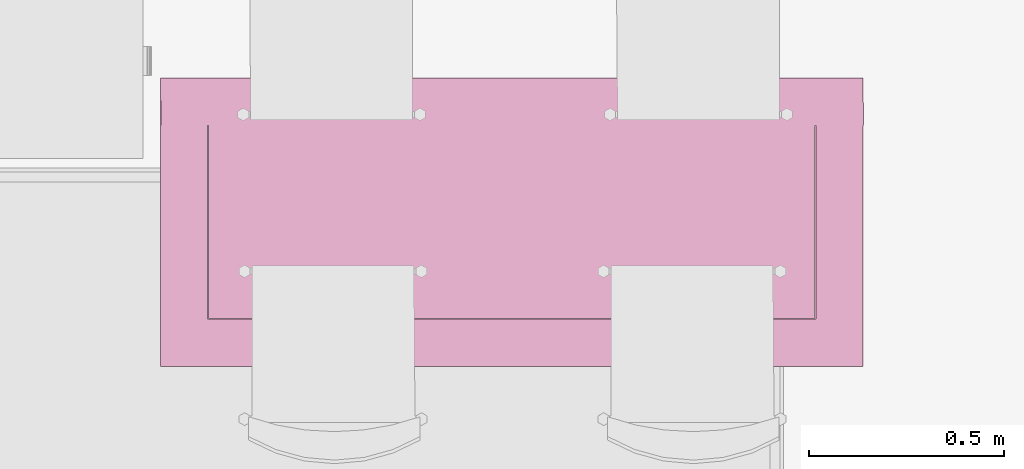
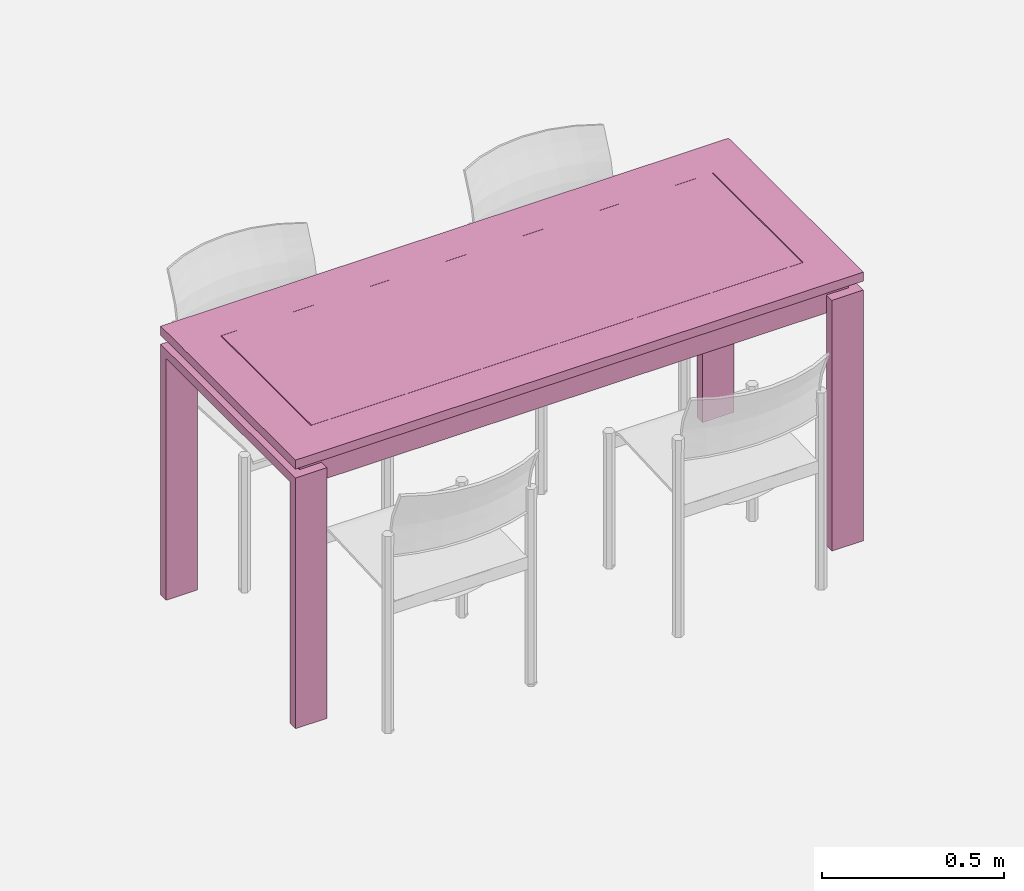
# One storey, part 4 of 4: 1 furniture element.
"""IFC4 building model written with IfcOpenShell, lengths in metres."""

from ifc_helpers import new_model, entity, si_unit, converted_unit, frame, origin, origin_with_axes, place, context, subcontext, project, spatial, faceted_brep, source, transform, mapped, material, constituent, constituent_set, element, save


model = new_model("IFC4")

# Units and contexts
model_context = context("Model", 3, precision=1e-05, world=origin())
body_context = subcontext(model_context, "Body", "Model", "MODEL_VIEW")
ifc_project = project(units=[si_unit("LENGTHUNIT", "METRE"), si_unit("AREAUNIT", "SQUARE_METRE"), si_unit("VOLUMEUNIT", "CUBIC_METRE"), si_unit("MASSUNIT", "GRAM", prefix="KILO"), converted_unit("PLANEANGLEUNIT", "DEGREE", entity("IfcPlaneAngleMeasure", 0.0174532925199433), si_unit("PLANEANGLEUNIT", "RADIAN"), dimensions=[0, 0, 0, 0, 0, 0, 0])], contexts=[model_context])

# Building, storey
building_placement = place(None, origin())
building = spatial("IfcBuilding", under=ifc_project, at=building_placement, Name="Projet de Construction", CompositionType="ELEMENT")
storey_placement = place(building_placement, frame((0.0, 0.0, -1.15)))
storey = spatial("IfcBuildingStorey", under=building, at=storey_placement, Name="Environnement", CompositionType="ELEMENT", Elevation=-1.15)

# Furniture
ifc_material = material()
ifc_constituent = constituent(ifc_material)
ifc_constituent_set = constituent_set(constituents=[ifc_constituent])
shared_shape = source(origin_with_axes(), body_context, "Body", "Brep", [
    faceted_brep([(1.7, 0.71, 0.0), (1.8, 0.71, 0.0), (1.8, 0.74, 0.0), (1.7, 0.74, 0.0), (1.8, 0.71, 0.84), (1.7, 0.71, 0.84), (1.7, 0.74, 0.84), (1.8, 0.74, 0.84)], [[[0, 1, 2, 3]], [[4, 5, 6, 7]], [[1, 0, 5, 4]], [[2, 1, 4, 7]], [[3, 2, 7, 6]], [[0, 3, 6, 5]]], orient=[[False], [False], [False], [False], [False], [False]]),
    faceted_brep([(0.06, 0.680000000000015, 0.78), (1.74, 0.680000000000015, 0.78), (1.74, 0.710000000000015, 0.78), (0.06, 0.710000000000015, 0.78), (1.74, 0.68, 0.87), (0.06, 0.68, 0.87), (0.06, 0.71, 0.87), (1.74, 0.71, 0.87)], [[[0, 1, 2, 3]], [[4, 5, 6, 7]], [[1, 0, 5, 4]], [[2, 1, 4, 7]], [[3, 2, 7, 6]], [[0, 3, 6, 5]]], orient=[[False], [False], [False], [False], [False], [False]]),
    faceted_brep([(0.03, 0.0300000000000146, 0.78), (0.06, 0.0300000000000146, 0.78), (0.06, 0.710000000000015, 0.78), (0.03, 0.710000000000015, 0.78), (0.03, 0.71, 0.87), (0.06, 0.71, 0.87), (0.06, 0.03, 0.87), (0.03, 0.03, 0.87)], [[[0, 1, 2, 3]], [[4, 5, 6, 7]], [[3, 4, 7, 0]], [[2, 5, 4, 3]], [[1, 6, 5, 2]], [[0, 7, 6, 1]]], orient=[[False], [False], [False], [False], [False], [False]]),
    faceted_brep([(0.1, 0.71, 0.81), (0.0, 0.71, 0.81), (0.0, 0.03, 0.81), (0.1, 0.03, 0.81), (0.1, 0.03, 0.84), (0.0, 0.03, 0.84), (0.0, 0.71, 0.84), (0.1, 0.71, 0.84)], [[[0, 1, 2, 3]], [[4, 5, 6, 7]], [[3, 4, 7, 0]], [[2, 5, 4, 3]], [[1, 6, 5, 2]], [[0, 7, 6, 1]]], orient=[[False], [False], [False], [False], [False], [False]]),
    faceted_brep([(1.77, 0.0300000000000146, 0.78), (1.77, 0.710000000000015, 0.78), (1.74, 0.710000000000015, 0.78), (1.74, 0.0300000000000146, 0.78), (1.77, 0.71, 0.87), (1.77, 0.03, 0.87), (1.74, 0.03, 0.87), (1.74, 0.71, 0.87)], [[[0, 1, 2, 3]], [[4, 5, 6, 7]], [[1, 0, 5, 4]], [[2, 1, 4, 7]], [[3, 2, 7, 6]], [[0, 3, 6, 5]]], orient=[[False], [False], [False], [False], [False], [False]]),
    faceted_brep([(1.7, 0.71, 0.81), (1.7, 0.03, 0.81), (1.8, 0.03, 0.81), (1.8, 0.71, 0.81), (1.7, 0.03, 0.84), (1.7, 0.71, 0.84), (1.8, 0.71, 0.84), (1.8, 0.03, 0.84)], [[[0, 1, 2, 3]], [[4, 5, 6, 7]], [[1, 0, 5, 4]], [[2, 1, 4, 7]], [[3, 2, 7, 6]], [[0, 3, 6, 5]]], orient=[[False], [False], [False], [False], [False], [False]]),
    faceted_brep([(0.1, 0.71, 0.0), (0.1, 0.74, 0.0), (0.0, 0.74, 0.0), (0.0, 0.71, 0.0), (0.0, 0.71, 0.84), (0.0, 0.74, 0.84), (0.1, 0.74, 0.84), (0.1, 0.71, 0.84)], [[[0, 1, 2, 3]], [[4, 5, 6, 7]], [[3, 4, 7, 0]], [[2, 5, 4, 3]], [[1, 6, 5, 2]], [[0, 7, 6, 1]]], orient=[[False], [False], [False], [False], [False], [False]]),
    faceted_brep([(1.7, 0.0, 0.0), (1.8, 0.0, 0.0), (1.8, 0.03, 0.0), (1.7, 0.03, 0.0), (1.8, 0.0, 0.84), (1.7, 0.0, 0.84), (1.7, 0.03, 0.84), (1.8, 0.03, 0.84)], [[[0, 1, 2, 3]], [[4, 5, 6, 7]], [[1, 0, 5, 4]], [[2, 1, 4, 7]], [[3, 2, 7, 6]], [[0, 3, 6, 5]]], orient=[[False], [False], [False], [False], [False], [False]]),
    faceted_brep([(0.1, 0.0, 0.0), (0.1, 0.03, 0.0), (0.0, 0.03, 0.0), (0.0, 0.0, 0.0), (0.0, 0.0, 0.84), (0.0, 0.03, 0.84), (0.1, 0.03, 0.84), (0.1, 0.0, 0.84)], [[[0, 1, 2, 3]], [[4, 5, 6, 7]], [[3, 4, 7, 0]], [[2, 5, 4, 3]], [[1, 6, 5, 2]], [[0, 7, 6, 1]]], orient=[[False], [False], [False], [False], [False], [False]]),
    faceted_brep([(0.06, 0.0300000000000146, 0.78), (1.74, 0.0300000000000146, 0.78), (1.74, 0.0600000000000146, 0.78), (0.06, 0.0600000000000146, 0.78), (1.74, 0.03, 0.87), (0.06, 0.03, 0.87), (0.06, 0.06, 0.87), (1.74, 0.06, 0.87)], [[[0, 1, 2, 3]], [[4, 5, 6, 7]], [[1, 0, 5, 4]], [[2, 1, 4, 7]], [[3, 2, 7, 6]], [[0, 3, 6, 5]]], orient=[[False], [False], [False], [False], [False], [False]]),
    faceted_brep([(0.1225, 0.61731506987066, 0.87), (0.1225, 0.123171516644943, 0.87), (1.6775, 0.123171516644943, 0.87), (1.6775, 0.61731506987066, 0.87), (0.1225, 0.123171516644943, 0.9), (0.1225, 0.61731506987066, 0.9), (1.6775, 0.61731506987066, 0.9), (1.6775, 0.123171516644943, 0.9)], [[[0, 1, 2, 3]], [[4, 5, 6, 7]], [[1, 0, 5, 4]], [[2, 1, 4, 7]], [[3, 2, 7, 6]], [[0, 3, 6, 5]]], orient=[[False], [False], [False], [False], [False], [False]]),
    faceted_brep([(0.0, 0.122500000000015, 0.87), (0.12, 0.122500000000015, 0.87), (0.12, 0.617500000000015, 0.87), (0.0, 0.617500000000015, 0.87), (0.12, 0.122500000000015, 0.9), (0.0, 0.122500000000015, 0.9), (0.0, 0.617500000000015, 0.9), (0.12, 0.617500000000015, 0.9)], [[[0, 1, 2, 3]], [[4, 5, 6, 7]], [[1, 0, 5, 4]], [[2, 1, 4, 7]], [[3, 2, 7, 6]], [[0, 3, 6, 5]]], orient=[[False], [False], [False], [False], [False], [False]]),
    faceted_brep([(0.0, 1.45519152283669e-14, 0.87), (1.8, 1.45519152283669e-14, 0.87), (1.8, 0.122500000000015, 0.87), (0.0, 0.122500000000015, 0.87), (1.8, 1.45519152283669e-14, 0.9), (0.0, 1.45519152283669e-14, 0.9), (0.0, 0.122500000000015, 0.9), (1.8, 0.122500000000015, 0.9)], [[[0, 1, 2, 3]], [[4, 5, 6, 7]], [[1, 0, 5, 4]], [[2, 1, 4, 7]], [[3, 2, 7, 6]], [[0, 3, 6, 5]]], orient=[[False], [False], [False], [False], [False], [False]]),
    faceted_brep([(1.68, 0.122500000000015, 0.87), (1.8, 0.122500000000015, 0.87), (1.8, 0.617500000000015, 0.87), (1.68, 0.617500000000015, 0.87), (1.8, 0.122500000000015, 0.9), (1.68, 0.122500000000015, 0.9), (1.68, 0.617500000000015, 0.9), (1.8, 0.617500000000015, 0.9)], [[[0, 1, 2, 3]], [[4, 5, 6, 7]], [[1, 0, 5, 4]], [[2, 1, 4, 7]], [[3, 2, 7, 6]], [[0, 3, 6, 5]]], orient=[[False], [False], [False], [False], [False], [False]]),
    faceted_brep([(0.000956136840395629, 0.617500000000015, 0.87), (1.8009561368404, 0.617500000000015, 0.87), (1.8, 0.740000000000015, 0.87), (0.0, 0.740000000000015, 0.87), (1.8009561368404, 0.617500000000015, 0.9), (0.000956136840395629, 0.617500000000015, 0.9), (0.0, 0.740000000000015, 0.9), (1.8, 0.740000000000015, 0.9)], [[[0, 1, 2, 3]], [[4, 5, 6, 7]], [[1, 0, 5, 4]], [[2, 1, 4, 7]], [[3, 2, 7, 6]], [[0, 3, 6, 5]]], orient=[[False], [False], [False], [False], [False], [False]]),
])
furniture_placement = place(storey_placement, frame((0.0147588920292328, 5.36030911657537, 1.15)))
element("IfcFurniture", 1, at=furniture_placement, inside=storey, material=ifc_constituent_set, Name="Table C 180x90x75", context=body_context, shape_type="MappedRepresentation", body=[
    mapped(shared_shape, transform((0.0, 0.0, 0.0), x_axis=(1.0, 0.0, 0.0), y_axis=(0.0, 1.0, 0.0), z_axis=(0.0, 0.0, 1.0), scale=1.0)),
])

save(model, "model.ifc")
